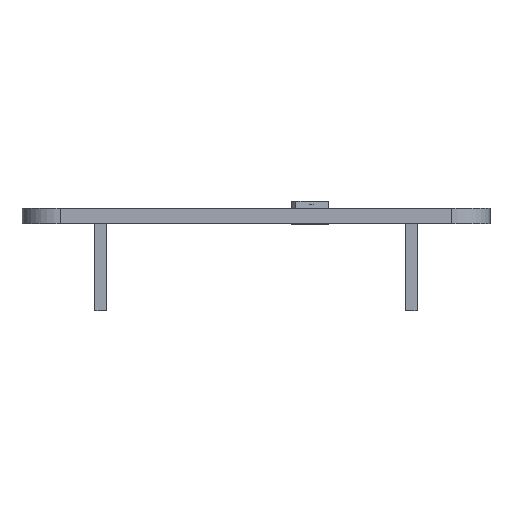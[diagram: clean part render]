
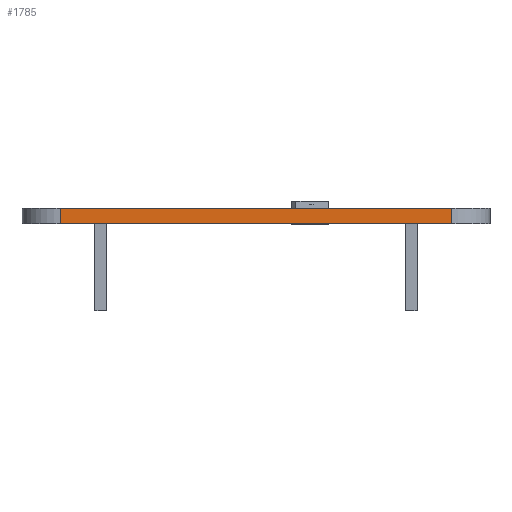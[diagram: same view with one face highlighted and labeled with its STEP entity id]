
A CAD part, left-side view. The second image highlights one B-rep face of the part: STEP entity #1785.
In plain terms, the highlighted planar face has unit normal (-1, 0, 0).
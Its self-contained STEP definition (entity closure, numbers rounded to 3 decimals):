
#44 = PLANE('',#45);
#45 = AXIS2_PLACEMENT_3D('',#46,#47,#48);
#46 = CARTESIAN_POINT('',(-105.,-61.,43.95));
#47 = DIRECTION('',(0.,0.,1.));
#48 = DIRECTION('',(1.,0.,-0.));
#141 = EDGE_CURVE('',#142,#144,#146,.T.);
#142 = VERTEX_POINT('',#143);
#143 = CARTESIAN_POINT('',(-105.,-51.,43.95));
#144 = VERTEX_POINT('',#145);
#145 = CARTESIAN_POINT('',(-105.,51.,43.95));
#146 = SURFACE_CURVE('',#147,(#151,#158),.PCURVE_S1.);
#147 = LINE('',#148,#149);
#148 = CARTESIAN_POINT('',(-105.,-61.,43.95));
#149 = VECTOR('',#150,1.);
#150 = DIRECTION('',(-0.,1.,0.));
#151 = PCURVE('',#44,#152);
#152 = DEFINITIONAL_REPRESENTATION('',(#153),#157);
#153 = LINE('',#154,#155);
#154 = CARTESIAN_POINT('',(0.,0.));
#155 = VECTOR('',#156,1.);
#156 = DIRECTION('',(0.,1.));
#157 = ( GEOMETRIC_REPRESENTATION_CONTEXT(2) 
PARAMETRIC_REPRESENTATION_CONTEXT() REPRESENTATION_CONTEXT('2D SPACE',''
  ) );
#158 = PCURVE('',#159,#164);
#159 = PLANE('',#160);
#160 = AXIS2_PLACEMENT_3D('',#161,#162,#163);
#161 = CARTESIAN_POINT('',(-105.,-61.,43.95));
#162 = DIRECTION('',(1.,0.,-0.));
#163 = DIRECTION('',(0.,0.,1.));
#164 = DEFINITIONAL_REPRESENTATION('',(#165),#169);
#165 = LINE('',#166,#167);
#166 = CARTESIAN_POINT('',(0.,0.));
#167 = VECTOR('',#168,1.);
#168 = DIRECTION('',(0.,-1.));
#169 = ( GEOMETRIC_REPRESENTATION_CONTEXT(2) 
PARAMETRIC_REPRESENTATION_CONTEXT() REPRESENTATION_CONTEXT('2D SPACE',''
  ) );
#188 = CYLINDRICAL_SURFACE('',#189,10.);
#189 = AXIS2_PLACEMENT_3D('',#190,#191,#192);
#190 = CARTESIAN_POINT('',(-95.,-51.,43.95));
#191 = DIRECTION('',(0.,0.,1.));
#192 = DIRECTION('',(-1.,-0.,0.));
#365 = CYLINDRICAL_SURFACE('',#366,10.);
#366 = AXIS2_PLACEMENT_3D('',#367,#368,#369);
#367 = CARTESIAN_POINT('',(-95.,51.,43.95));
#368 = DIRECTION('',(0.,0.,1.));
#369 = DIRECTION('',(-1.,-0.,0.));
#1785 = ADVANCED_FACE('',(#1786),#159,.F.);
#1786 = FACE_BOUND('',#1787,.F.);
#1787 = EDGE_LOOP('',(#1788,#1818,#1839,#1840));
#1788 = ORIENTED_EDGE('',*,*,#1789,.F.);
#1789 = EDGE_CURVE('',#1790,#1792,#1794,.T.);
#1790 = VERTEX_POINT('',#1791);
#1791 = CARTESIAN_POINT('',(-105.,-51.,47.95));
#1792 = VERTEX_POINT('',#1793);
#1793 = CARTESIAN_POINT('',(-105.,51.,47.95));
#1794 = SURFACE_CURVE('',#1795,(#1799,#1806),.PCURVE_S1.);
#1795 = LINE('',#1796,#1797);
#1796 = CARTESIAN_POINT('',(-105.,-61.,47.95));
#1797 = VECTOR('',#1798,1.);
#1798 = DIRECTION('',(-0.,1.,0.));
#1799 = PCURVE('',#159,#1800);
#1800 = DEFINITIONAL_REPRESENTATION('',(#1801),#1805);
#1801 = LINE('',#1802,#1803);
#1802 = CARTESIAN_POINT('',(4.,0.));
#1803 = VECTOR('',#1804,1.);
#1804 = DIRECTION('',(0.,-1.));
#1805 = ( GEOMETRIC_REPRESENTATION_CONTEXT(2) 
PARAMETRIC_REPRESENTATION_CONTEXT() REPRESENTATION_CONTEXT('2D SPACE',''
  ) );
#1806 = PCURVE('',#1807,#1812);
#1807 = PLANE('',#1808);
#1808 = AXIS2_PLACEMENT_3D('',#1809,#1810,#1811);
#1809 = CARTESIAN_POINT('',(-105.,-61.,47.95));
#1810 = DIRECTION('',(0.,0.,1.));
#1811 = DIRECTION('',(1.,0.,-0.));
#1812 = DEFINITIONAL_REPRESENTATION('',(#1813),#1817);
#1813 = LINE('',#1814,#1815);
#1814 = CARTESIAN_POINT('',(0.,0.));
#1815 = VECTOR('',#1816,1.);
#1816 = DIRECTION('',(0.,1.));
#1817 = ( GEOMETRIC_REPRESENTATION_CONTEXT(2) 
PARAMETRIC_REPRESENTATION_CONTEXT() REPRESENTATION_CONTEXT('2D SPACE',''
  ) );
#1818 = ORIENTED_EDGE('',*,*,#1819,.F.);
#1819 = EDGE_CURVE('',#142,#1790,#1820,.T.);
#1820 = SURFACE_CURVE('',#1821,(#1825,#1832),.PCURVE_S1.);
#1821 = LINE('',#1822,#1823);
#1822 = CARTESIAN_POINT('',(-105.,-51.,43.95));
#1823 = VECTOR('',#1824,1.);
#1824 = DIRECTION('',(0.,0.,1.));
#1825 = PCURVE('',#159,#1826);
#1826 = DEFINITIONAL_REPRESENTATION('',(#1827),#1831);
#1827 = LINE('',#1828,#1829);
#1828 = CARTESIAN_POINT('',(0.,-10.));
#1829 = VECTOR('',#1830,1.);
#1830 = DIRECTION('',(1.,0.));
#1831 = ( GEOMETRIC_REPRESENTATION_CONTEXT(2) 
PARAMETRIC_REPRESENTATION_CONTEXT() REPRESENTATION_CONTEXT('2D SPACE',''
  ) );
#1832 = PCURVE('',#188,#1833);
#1833 = DEFINITIONAL_REPRESENTATION('',(#1834),#1838);
#1834 = LINE('',#1835,#1836);
#1835 = CARTESIAN_POINT('',(0.,0.));
#1836 = VECTOR('',#1837,1.);
#1837 = DIRECTION('',(0.,1.));
#1838 = ( GEOMETRIC_REPRESENTATION_CONTEXT(2) 
PARAMETRIC_REPRESENTATION_CONTEXT() REPRESENTATION_CONTEXT('2D SPACE',''
  ) );
#1839 = ORIENTED_EDGE('',*,*,#141,.T.);
#1840 = ORIENTED_EDGE('',*,*,#1841,.T.);
#1841 = EDGE_CURVE('',#144,#1792,#1842,.T.);
#1842 = SURFACE_CURVE('',#1843,(#1847,#1854),.PCURVE_S1.);
#1843 = LINE('',#1844,#1845);
#1844 = CARTESIAN_POINT('',(-105.,51.,43.95));
#1845 = VECTOR('',#1846,1.);
#1846 = DIRECTION('',(0.,0.,1.));
#1847 = PCURVE('',#159,#1848);
#1848 = DEFINITIONAL_REPRESENTATION('',(#1849),#1853);
#1849 = LINE('',#1850,#1851);
#1850 = CARTESIAN_POINT('',(0.,-112.));
#1851 = VECTOR('',#1852,1.);
#1852 = DIRECTION('',(1.,0.));
#1853 = ( GEOMETRIC_REPRESENTATION_CONTEXT(2) 
PARAMETRIC_REPRESENTATION_CONTEXT() REPRESENTATION_CONTEXT('2D SPACE',''
  ) );
#1854 = PCURVE('',#365,#1855);
#1855 = DEFINITIONAL_REPRESENTATION('',(#1856),#1860);
#1856 = LINE('',#1857,#1858);
#1857 = CARTESIAN_POINT('',(-0.,0.));
#1858 = VECTOR('',#1859,1.);
#1859 = DIRECTION('',(-0.,1.));
#1860 = ( GEOMETRIC_REPRESENTATION_CONTEXT(2) 
PARAMETRIC_REPRESENTATION_CONTEXT() REPRESENTATION_CONTEXT('2D SPACE',''
  ) );
